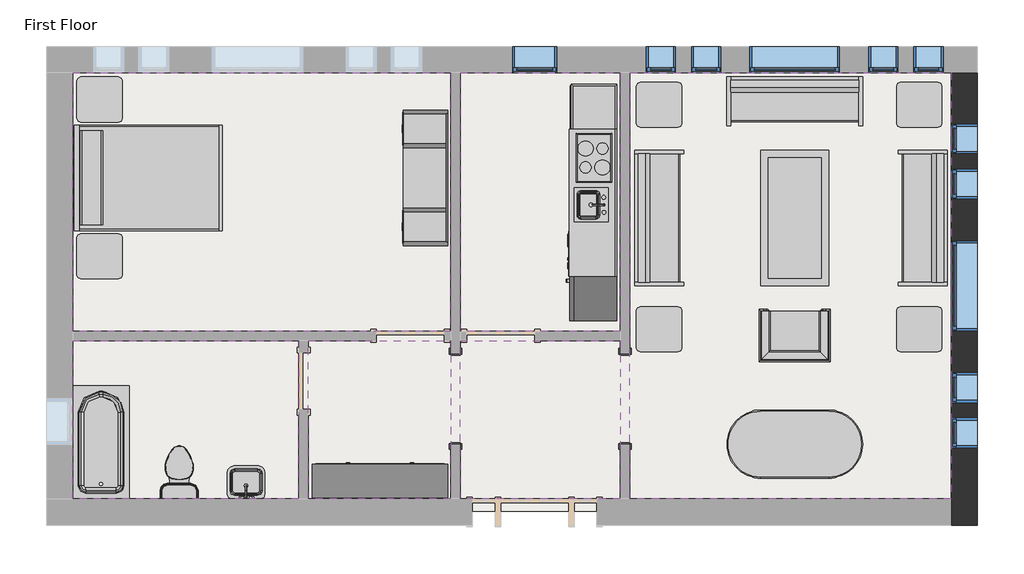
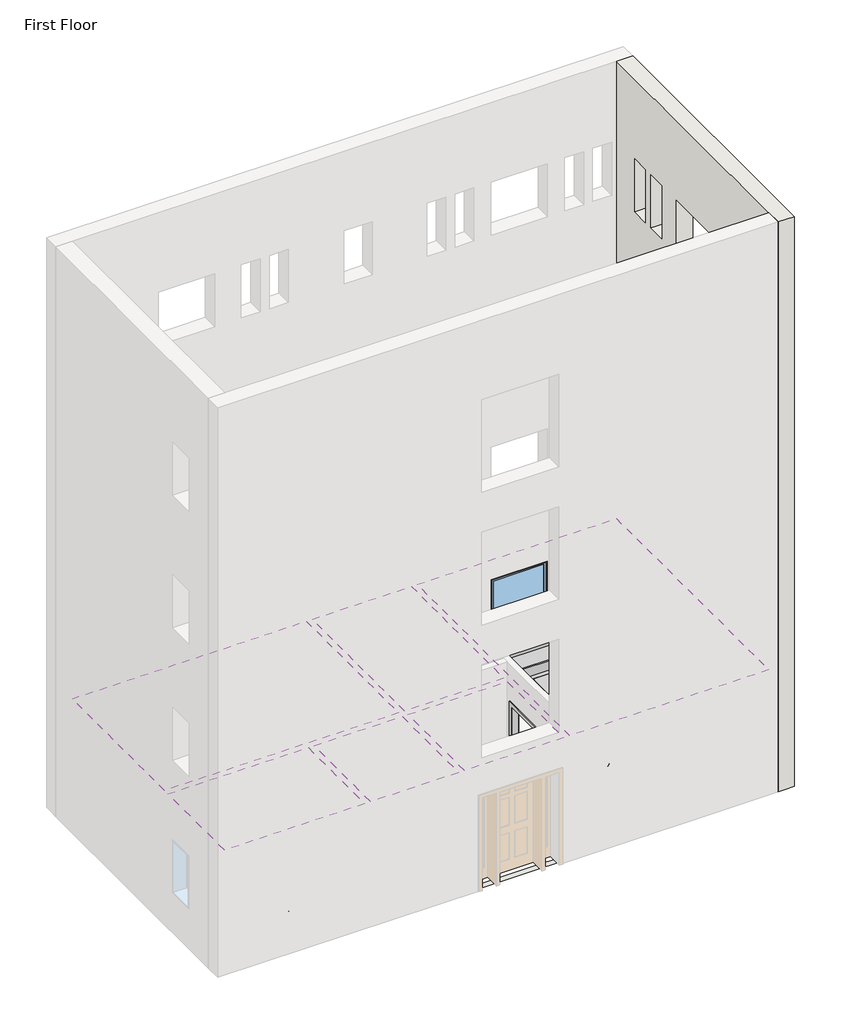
# One storey, part 2 of 2: 15 furniture elements, 11 windows, 6 coverings, 3 flow terminals, 3 proxies, 1 slab, 1 wall.
"""IFC4 building model written with IfcOpenShell, lengths in millimetres."""

from ifc_helpers import new_model, si_unit, frame, origin, place, context, project, spatial, polyline, outline, extrude, faceted_brep, transform, mapped, element, save
from components import proxy_64a468c4, proxy_f44482cc, flow_terminal_0aeb31e3, toilet_domestic_3d_toilet_domestic_3d_f7549cf7, toilet_domestic_3d_toilet_domestic_3d_183bbd19, tub_rectangular_3d_tub_rectangular_3d_5e45a89b, furniture_096e7f55, chair_corbu_chair_corbu_2764bdef, furniture_7c473f12, furniture_ddc78764, furniture_4ef38d96, furniture_cd93a443, furniture_2c34a4f9, furniture_3a588284, furniture_1befe2a2, window_da97879f, window_d61ef850, window_60baf983, window_6eb97611

model = new_model("IFC4")

# Units and contexts
model_context = context("Model", 3, world=origin())
ifc_project = project(units=[si_unit("LENGTHUNIT", "METRE", prefix="MILLI")], contexts=[model_context])

# Site, building, storey
site = spatial("IfcSite", under=ifc_project)
building = spatial("IfcBuilding", under=site)
storey = spatial("IfcBuildingStorey", under=building, Name="First Floor", Elevation=0.0)

# Proxies
placement = place(None, origin())
proxy_shape = proxy_64a468c4(model_context)
element("IfcBuildingElementProxy", 1, Name="Kitchenette - Medium : 8'6\"", ObjectType="Kitchenette - Medium : 8'6\"", at=placement, inside=storey, context=model_context, shape_type="MappedRepresentation", body=[
    mapped(proxy_shape, transform((-3887.7589563, 8837.7956433, 0.0), x_axis=(0.0, -1.0, 0.0), y_axis=(1.0, 0.0, 0.0), z_axis=(0.0, 0.0, 1.0))),
])
proxy_2_shape = proxy_f44482cc(model_context)
element("IfcBuildingElementProxy", 2, Name="Opening-Cased : 48\" x 84\"", ObjectType="Opening-Cased : 48\" x 84\"", at=placement, inside=storey, context=model_context, shape_type="MappedRepresentation", body=[
    mapped(proxy_2_shape, transform((-3773.4589563, 5882.4203434, 0.0), x_axis=(0.0, 1.0, 0.0), y_axis=(-1.0, 0.0, 0.0), z_axis=(0.0, 0.0, 1.0))),
])
element("IfcBuildingElementProxy", 3, Name="Opening-Cased : 48\" x 84\"", ObjectType="Opening-Cased : 48\" x 84\"", at=placement, inside=storey, context=model_context, shape_type="MappedRepresentation", body=[
    mapped(proxy_2_shape, transform((-6059.4589563, 5866.04303, 0.0), x_axis=(0.0, -1.0, 0.0), y_axis=(1.0, 0.0, 0.0), z_axis=(0.0, 0.0, 1.0))),
])

# Coverings
element("IfcCovering", 4, ObjectType="GWB on Mtl. Stud", at=placement, inside=storey, context=model_context, shape_type="SweptSolid", body=[
    extrude(outline(polyline([(-11217.2464563, 10270.0191867), (-6122.9589563, 10270.0191867), (-6122.9589563, 6787.0441867), (-11217.2464563, 6787.0441867), (-11217.2464563, 10270.0191867)])), frame((0.0, 0.0, 2590.8), z_axis=(0.0, 0.0, 1.0), x_axis=(1.0, 0.0, 0.0)), (0.0, 0.0, 1.0), 107.95),
])
element("IfcCovering", 5, ObjectType="GWB on Mtl. Stud", at=placement, inside=storey, context=model_context, shape_type="SweptSolid", body=[
    extrude(outline(polyline([(-5995.9589563, 6787.0441867), (-5995.9589563, 10270.0191867), (-3836.9589563, 10270.0191867), (-3836.9589563, 6787.0441867), (-5995.9589563, 6787.0441867)])), frame((0.0, 0.0, 2590.8), z_axis=(0.0, 0.0, 1.0), x_axis=(1.0, 0.0, 0.0)), (0.0, 0.0, 1.0), 107.95),
])
element("IfcCovering", 6, ObjectType="GWB on Mtl. Stud", at=placement, inside=storey, context=model_context, shape_type="SweptSolid", body=[
    extrude(outline(polyline([(-3709.9589563, 4526.4441867), (-3709.9589563, 10270.0191867), (622.3285437, 10270.0191867), (622.3285437, 4526.4441867), (-3709.9589563, 4526.4441867)])), frame((0.0, 0.0, 2590.8), z_axis=(0.0, 0.0, 1.0), x_axis=(1.0, 0.0, 0.0)), (0.0, 0.0, 1.0), 107.95),
])
element("IfcCovering", 7, ObjectType="GWB on Mtl. Stud", at=placement, inside=storey, context=model_context, shape_type="SweptSolid", body=[
    extrude(outline(polyline([(-3836.9589563, 4526.4441867), (-5995.9589563, 4526.4441867), (-5995.9589563, 6660.0441867), (-3836.9589563, 6660.0441867), (-3836.9589563, 4526.4441867)])), frame((0.0, 0.0, 2590.8), z_axis=(0.0, 0.0, 1.0), x_axis=(1.0, 0.0, 0.0)), (0.0, 0.0, 1.0), 107.95),
])
element("IfcCovering", 8, ObjectType="GWB on Mtl. Stud", at=placement, inside=storey, context=model_context, shape_type="SweptSolid", body=[
    extrude(outline(polyline([(-6122.9589563, 4526.4441867), (-8042.2464563, 4526.4441867), (-8042.2464563, 6660.0441867), (-6122.9589563, 6660.0441867), (-6122.9589563, 4526.4441867)])), frame((0.0, 0.0, 2590.8), z_axis=(0.0, 0.0, 1.0), x_axis=(1.0, 0.0, 0.0)), (0.0, 0.0, 1.0), 107.95),
])
element("IfcCovering", 9, ObjectType="GWB on Mtl. Stud", at=placement, inside=storey, context=model_context, shape_type="SweptSolid", body=[
    extrude(outline(polyline([(-8169.2464563, 6660.0441867), (-8169.2464563, 4526.4441867), (-11217.2464563, 4526.4441867), (-11217.2464563, 6660.0441867), (-8169.2464563, 6660.0441867)])), frame((0.0, 0.0, 2590.8), z_axis=(0.0, 0.0, 1.0), x_axis=(1.0, 0.0, 0.0)), (0.0, 0.0, 1.0), 107.95),
])

# Flow terminals
flow_terminal_shape = flow_terminal_0aeb31e3(model_context)
element("IfcFlowTerminal", 10, ObjectType="Sink Vanity-Square : 24\" x 19\"", at=placement, inside=storey, context=model_context, shape_type="MappedRepresentation", body=[
    mapped(flow_terminal_shape, transform((-8864.7572157, 4706.5895878, 0.0), x_axis=(-1.0, 0.0, 0.0), y_axis=(0.0, -1.0, 0.0), z_axis=(0.0, 0.0, 1.0))),
])
toilet_domestic_3d_toilet_domestic_3d_shape = toilet_domestic_3d_toilet_domestic_3d_f7549cf7(model_context)
toilet_domestic_3d_toilet_domestic_3d_2_shape = toilet_domestic_3d_toilet_domestic_3d_183bbd19(model_context)
element("IfcFlowTerminal", 11, ObjectType="Toilet-Domestic-3D : Toilet-Domestic-3D", at=placement, inside=storey, context=model_context, shape_type="MappedRepresentation", body=[
    mapped(toilet_domestic_3d_toilet_domestic_3d_shape, transform((-9782.1466587, 4940.866411, 0.0), x_axis=(-1.0000000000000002, 0.0, 0.0), y_axis=(0.0, -1.0000000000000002, 0.0), z_axis=(0.0, 0.0, 1.0))),
    mapped(toilet_domestic_3d_toilet_domestic_3d_2_shape, transform((-9782.1466587, 4940.866411, 0.0), x_axis=(-1.0000000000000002, 0.0, 0.0), y_axis=(0.0, -1.0000000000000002, 0.0), z_axis=(0.0, 0.0, 1.0))),
])
tub_rectangular_3d_tub_rectangular_3d_shape = tub_rectangular_3d_tub_rectangular_3d_5e45a89b(model_context)
element("IfcFlowTerminal", 12, ObjectType="Tub-Rectangular-3D : Tub-Rectangular-3D", at=placement, inside=storey, context=model_context, shape_type="MappedRepresentation", body=[
    mapped(tub_rectangular_3d_tub_rectangular_3d_shape, transform((-11393.4589563, 5637.0471554, 0.0), x_axis=(0.0, 1.0, 0.0), y_axis=(-1.0, 0.0, 0.0), z_axis=(0.0, 0.0, 1.0))),
])

# Furniture
furniture_shape = furniture_096e7f55(model_context)
element("IfcFurniture", 13, ObjectType="Bed-Shaker : Double 56\" x 78\"", at=placement, inside=storey, context=model_context, shape_type="MappedRepresentation", body=[
    mapped(furniture_shape, transform((-11183.1982802, 8871.8755561, 0.0), x_axis=(0.0, 1.0, 0.0), y_axis=(-1.0, 0.0, 0.0), z_axis=(0.0, 0.0, 1.0))),
])
chair_corbu_chair_corbu_shape = chair_corbu_chair_corbu_2764bdef(model_context)
element("IfcFurniture", 14, ObjectType="Chair-Corbu : Chair-Corbu", at=placement, inside=storey, context=model_context, shape_type="MappedRepresentation", body=[
    mapped(chair_corbu_chair_corbu_shape, transform((-914.0851858, 7193.4962359, 0.0), x_axis=(-1.0, 0.0, 0.0), y_axis=(0.0, -1.0, 0.0), z_axis=(0.0, 0.0, 1.0))),
])
furniture_2_shape = furniture_7c473f12(model_context)
element("IfcFurniture", 15, ObjectType="Dresser : 72\" x 60\" x 18\"", at=placement, inside=storey, context=model_context, shape_type="MappedRepresentation", body=[
    mapped(furniture_2_shape, transform((-7344.6522161, 4404.5812326, 0.0), x_axis=(-1.0, 0.0, 0.0), y_axis=(0.0, -1.0, 0.0), z_axis=(0.0, 0.0, 1.0))),
])
furniture_3_shape = furniture_ddc78764(model_context)
element("IfcFurniture", 16, ObjectType="Entertainment Center : 72\" x 72\" x 24\"", at=placement, inside=storey, context=model_context, shape_type="MappedRepresentation", body=[
    mapped(furniture_3_shape, transform((-6059.4589563, 8852.8255561, 0.0), x_axis=(0.0, -1.0, 0.0), y_axis=(1.0, 0.0, 0.0), z_axis=(0.0, 0.0, 1.0))),
])
furniture_4_shape = furniture_4ef38d96(model_context)
element("IfcFurniture", 17, ObjectType="Sofa : 72\"", at=placement, inside=storey, context=model_context, shape_type="MappedRepresentation", body=[
    mapped(furniture_4_shape, transform((-1557.8294481, 9741.2775883, 0.0), x_axis=(1.0, 0.0, 0.0), y_axis=(0.0, 1.0, 0.0), z_axis=(0.0, 0.0, 1.0))),
])
element("IfcFurniture", 18, ObjectType="Sofa : 72\"", at=placement, inside=storey, context=model_context, shape_type="MappedRepresentation", body=[
    mapped(furniture_4_shape, transform((93.5869453, 8383.0021785, 0.0), x_axis=(0.0, -1.0, 0.0), y_axis=(1.0, 0.0, 0.0), z_axis=(0.0, 0.0, 1.0))),
])
element("IfcFurniture", 19, ObjectType="Sofa : 72\"", at=placement, inside=storey, context=model_context, shape_type="MappedRepresentation", body=[
    mapped(furniture_4_shape, transform((-3170.104858, 8242.2611949, 0.0), x_axis=(0.0, 1.0, 0.0), y_axis=(-1.0, 0.0, 0.0), z_axis=(0.0, 0.0, 1.0))),
])
furniture_5_shape = furniture_cd93a443(model_context)
element("IfcFurniture", 20, ObjectType="Table-Coffee : 36\" x 72\" x 18\"", at=placement, inside=storey, context=model_context, shape_type="MappedRepresentation", body=[
    mapped(furniture_5_shape, transform((-1582.6700341, 8330.8974534, 0.0), x_axis=(0.0, -1.0, 0.0), y_axis=(1.0, 0.0, 0.0), z_axis=(0.0, 0.0, 1.0))),
])
furniture_6_shape = furniture_2c34a4f9(model_context)
element("IfcFurniture", 21, ObjectType="Table-Dining Oval : 36\" x 72\"", at=placement, inside=storey, context=model_context, shape_type="MappedRepresentation", body=[
    mapped(furniture_6_shape, transform((-1085.6392842, 5622.7300473, 0.0), x_axis=(1.0, 0.0, 0.0), y_axis=(0.0, 1.0, 0.0), z_axis=(0.0, 0.0, 1.0))),
])
furniture_7_shape = furniture_3a588284(model_context)
element("IfcFurniture", 22, ObjectType="Table-End : 24\" x 24\"", at=placement, inside=storey, context=model_context, shape_type="MappedRepresentation", body=[
    mapped(furniture_7_shape, transform((-119.5925866, 9684.2316867, 0.0), x_axis=(1.0, 0.0, 0.0), y_axis=(0.0, 1.0, 0.0), z_axis=(0.0, 0.0, 1.0))),
])
element("IfcFurniture", 23, ObjectType="Table-End : 24\" x 24\"", at=placement, inside=storey, context=model_context, shape_type="MappedRepresentation", body=[
    mapped(furniture_7_shape, transform((-3624.7925866, 9684.2316867, 0.0), x_axis=(1.0, 0.0, 0.0), y_axis=(0.0, 1.0, 0.0), z_axis=(0.0, 0.0, 1.0))),
])
element("IfcFurniture", 24, ObjectType="Table-End : 24\" x 24\"", at=placement, inside=storey, context=model_context, shape_type="MappedRepresentation", body=[
    mapped(furniture_7_shape, transform((-3624.7925866, 6660.0441867, 0.0), x_axis=(1.0, 0.0, 0.0), y_axis=(0.0, 1.0, 0.0), z_axis=(0.0, 0.0, 1.0))),
])
element("IfcFurniture", 25, ObjectType="Table-End : 24\" x 24\"", at=placement, inside=storey, context=model_context, shape_type="MappedRepresentation", body=[
    mapped(furniture_7_shape, transform((-119.5925866, 6660.0441867, 0.0), x_axis=(1.0, 0.0, 0.0), y_axis=(0.0, 1.0, 0.0), z_axis=(0.0, 0.0, 1.0))),
])
element("IfcFurniture", 26, ObjectType="Table-End : 24\" x 24\"", at=placement, inside=storey, context=model_context, shape_type="MappedRepresentation", body=[
    mapped(furniture_7_shape, transform((-11164.2346356, 9756.0737357, 0.0), x_axis=(1.0, 0.0, 0.0), y_axis=(0.0, 1.0, 0.0), z_axis=(0.0, 0.0, 1.0))),
])
furniture_8_shape = furniture_1befe2a2(model_context)
element("IfcFurniture", 27, ObjectType="Table-End : 24\" x 24\"", at=placement, inside=storey, context=model_context, shape_type="MappedRepresentation", body=[
    mapped(furniture_8_shape, transform((-11164.2346356, 7949.5773764, 0.0), x_axis=(1.0, 0.0, 0.0), y_axis=(0.0, 1.0, 0.0), z_axis=(0.0, 0.0, 1.0))),
])

# Slab
element("IfcSlab", 28, ObjectType="LW Concrete on Metal Deck", at=placement, inside=storey, context=model_context, shape_type="SweptSolid", body=[
    extrude(outline(polyline([(787.4285437, 10435.1191867), (787.4285437, 4361.3441867), (-11382.3464563, 4361.3441867), (-11382.3464563, 10435.1191867), (787.4285437, 10435.1191867)])), frame((0.0, 0.0, -104.775), z_axis=(0.0, 0.0, 1.0), x_axis=(1.0, 0.0, 0.0)), (0.0, 0.0, 1.0), 104.775),
])

# Wall
element("IfcWall", 29, ObjectType="Exterior - Brick on Mtl. Stud", at=placement, inside=storey, context=model_context, shape_type="Brep", body=[
    faceted_brep([(622.3285437, 10270.0191867, 13106.4), (622.3285437, 4526.4441867, 13106.4), (622.3285437, 4174.0191867, 13106.4), (974.7535437, 4174.0191867, 13106.4), (974.7535437, 10270.0191867, 13106.4), (622.3285437, 10270.0191867, 0.0), (622.3285437, 4526.4441867, 0.0), (622.3285437, 4361.3441867, 0.0), (622.3285437, 4174.0191867, 0.0), (622.3285437, 5823.4316867, 8229.6), (622.3285437, 5823.4316867, 7010.4), (622.3285437, 6229.8316867, 7010.4), (622.3285437, 6229.8316867, 8229.6), (622.3285437, 5213.8316867, 8229.6), (622.3285437, 5213.8316867, 7010.4), (622.3285437, 5620.2316867, 7010.4), (622.3285437, 5620.2316867, 8229.6), (622.3285437, 8973.0316867, 8229.6), (622.3285437, 8566.6316867, 8229.6), (622.3285437, 8566.6316867, 7010.4), (622.3285437, 8973.0316867, 7010.4), (622.3285437, 9582.6316867, 8229.6), (622.3285437, 9176.2316867, 8229.6), (622.3285437, 9176.2316867, 7010.4), (622.3285437, 9582.6316867, 7010.4), (622.3285437, 8007.8316867, 8229.6), (622.3285437, 6788.6316867, 8229.6), (622.3285437, 6788.6316867, 7010.4), (622.3285437, 8007.8316867, 7010.4), (622.3285437, 5823.4316867, 5181.6), (622.3285437, 5823.4316867, 3962.4), (622.3285437, 6229.8316867, 3962.4), (622.3285437, 6229.8316867, 5181.6), (622.3285437, 5213.8316867, 5181.6), (622.3285437, 5213.8316867, 3962.4), (622.3285437, 5620.2316867, 3962.4), (622.3285437, 5620.2316867, 5181.6), (622.3285437, 8973.0316867, 5181.6), (622.3285437, 8566.6316867, 5181.6), (622.3285437, 8566.6316867, 3962.4), (622.3285437, 8973.0316867, 3962.4), (622.3285437, 9582.6316867, 5181.6), (622.3285437, 9176.2316867, 5181.6), (622.3285437, 9176.2316867, 3962.4), (622.3285437, 9582.6316867, 3962.4), (622.3285437, 8007.8316867, 5181.6), (622.3285437, 6788.6316867, 5181.6), (622.3285437, 6788.6316867, 3962.4), (622.3285437, 8007.8316867, 3962.4), (622.3285437, 5823.4316867, 11277.6), (622.3285437, 5823.4316867, 10058.4), (622.3285437, 6229.8316867, 10058.4), (622.3285437, 6229.8316867, 11277.6), (622.3285437, 5213.8316867, 11277.6), (622.3285437, 5213.8316867, 10058.4), (622.3285437, 5620.2316867, 10058.4), (622.3285437, 5620.2316867, 11277.6), (622.3285437, 8973.0316867, 11277.6), (622.3285437, 8566.6316867, 11277.6), (622.3285437, 8566.6316867, 10058.4), (622.3285437, 8973.0316867, 10058.4), (622.3285437, 9582.6316867, 11277.6), (622.3285437, 9176.2316867, 11277.6), (622.3285437, 9176.2316867, 10058.4), (622.3285437, 9582.6316867, 10058.4), (622.3285437, 8007.8316867, 11277.6), (622.3285437, 6788.6316867, 11277.6), (622.3285437, 6788.6316867, 10058.4), (622.3285437, 8007.8316867, 10058.4), (622.3285437, 5823.4316867, 2133.6), (622.3285437, 5823.4316867, 914.4), (622.3285437, 6229.8316867, 914.4), (622.3285437, 6229.8316867, 2133.6), (622.3285437, 5213.8316867, 2133.6), (622.3285437, 5213.8316867, 914.4), (622.3285437, 5620.2316867, 914.4), (622.3285437, 5620.2316867, 2133.6), (622.3285437, 8973.0316867, 2133.6), (622.3285437, 8566.6316867, 2133.6), (622.3285437, 8566.6316867, 914.4), (622.3285437, 8973.0316867, 914.4), (622.3285437, 9582.6316867, 2133.6), (622.3285437, 9176.2316867, 2133.6), (622.3285437, 9176.2316867, 914.4), (622.3285437, 9582.6316867, 914.4), (622.3285437, 8007.8316867, 2133.6), (622.3285437, 6788.6316867, 2133.6), (622.3285437, 6788.6316867, 914.4), (622.3285437, 8007.8316867, 914.4), (974.7535437, 10270.0191867, 0.0), (974.7535437, 4174.0191867, 0.0), (974.7535437, 4361.3441867, 0.0), (974.7535437, 5823.4316867, 8229.6), (974.7535437, 6229.8316867, 8229.6), (974.7535437, 6229.8316867, 7010.4), (974.7535437, 5823.4316867, 7010.4), (974.7535437, 5213.8316867, 8229.6), (974.7535437, 5620.2316867, 8229.6), (974.7535437, 5620.2316867, 7010.4), (974.7535437, 5213.8316867, 7010.4), (974.7535437, 8973.0316867, 8229.6), (974.7535437, 8973.0316867, 7010.4), (974.7535437, 8566.6316867, 7010.4), (974.7535437, 8566.6316867, 8229.6), (974.7535437, 9582.6316867, 8229.6), (974.7535437, 9582.6316867, 7010.4), (974.7535437, 9176.2316867, 7010.4), (974.7535437, 9176.2316867, 8229.6), (974.7535437, 8007.8316867, 8229.6), (974.7535437, 8007.8316867, 7010.4), (974.7535437, 6788.6316867, 7010.4), (974.7535437, 6788.6316867, 8229.6), (974.7535437, 5823.4316867, 5181.6), (974.7535437, 6229.8316867, 5181.6), (974.7535437, 6229.8316867, 3962.4), (974.7535437, 5823.4316867, 3962.4), (974.7535437, 5213.8316867, 5181.6), (974.7535437, 5620.2316867, 5181.6), (974.7535437, 5620.2316867, 3962.4), (974.7535437, 5213.8316867, 3962.4), (974.7535437, 8973.0316867, 5181.6), (974.7535437, 8973.0316867, 3962.4), (974.7535437, 8566.6316867, 3962.4), (974.7535437, 8566.6316867, 5181.6), (974.7535437, 9582.6316867, 5181.6), (974.7535437, 9582.6316867, 3962.4), (974.7535437, 9176.2316867, 3962.4), (974.7535437, 9176.2316867, 5181.6), (974.7535437, 8007.8316867, 5181.6), (974.7535437, 8007.8316867, 3962.4), (974.7535437, 6788.6316867, 3962.4), (974.7535437, 6788.6316867, 5181.6), (974.7535437, 5823.4316867, 11277.6), (974.7535437, 6229.8316867, 11277.6), (974.7535437, 6229.8316867, 10058.4), (974.7535437, 5823.4316867, 10058.4), (974.7535437, 5213.8316867, 11277.6), (974.7535437, 5620.2316867, 11277.6), (974.7535437, 5620.2316867, 10058.4), (974.7535437, 5213.8316867, 10058.4), (974.7535437, 8973.0316867, 11277.6), (974.7535437, 8973.0316867, 10058.4), (974.7535437, 8566.6316867, 10058.4), (974.7535437, 8566.6316867, 11277.6), (974.7535437, 9582.6316867, 11277.6), (974.7535437, 9582.6316867, 10058.4), (974.7535437, 9176.2316867, 10058.4), (974.7535437, 9176.2316867, 11277.6), (974.7535437, 8007.8316867, 11277.6), (974.7535437, 8007.8316867, 10058.4), (974.7535437, 6788.6316867, 10058.4), (974.7535437, 6788.6316867, 11277.6), (974.7535437, 5823.4316867, 2133.6), (974.7535437, 6229.8316867, 2133.6), (974.7535437, 6229.8316867, 914.4), (974.7535437, 5823.4316867, 914.4), (974.7535437, 5213.8316867, 2133.6), (974.7535437, 5620.2316867, 2133.6), (974.7535437, 5620.2316867, 914.4), (974.7535437, 5213.8316867, 914.4), (974.7535437, 8973.0316867, 2133.6), (974.7535437, 8973.0316867, 914.4), (974.7535437, 8566.6316867, 914.4), (974.7535437, 8566.6316867, 2133.6), (974.7535437, 9582.6316867, 2133.6), (974.7535437, 9582.6316867, 914.4), (974.7535437, 9176.2316867, 914.4), (974.7535437, 9176.2316867, 2133.6), (974.7535437, 8007.8316867, 2133.6), (974.7535437, 8007.8316867, 914.4), (974.7535437, 6788.6316867, 914.4), (974.7535437, 6788.6316867, 2133.6), (787.4285437, 10270.0191867, 0.0), (787.4285437, 4174.0191867, 0.0), (787.4285437, 4361.3441867, 0.0)], [[[0, 1, 2, 3, 4]], [[5, 6, 7, 8, 2, 1, 0], [9, 10, 11, 12], [13, 14, 15, 16], [17, 18, 19, 20], [21, 22, 23, 24], [25, 26, 27, 28], [29, 30, 31, 32], [33, 34, 35, 36], [37, 38, 39, 40], [41, 42, 43, 44], [45, 46, 47, 48], [49, 50, 51, 52], [53, 54, 55, 56], [57, 58, 59, 60], [61, 62, 63, 64], [65, 66, 67, 68], [69, 70, 71, 72], [73, 74, 75, 76], [77, 78, 79, 80], [81, 82, 83, 84], [85, 86, 87, 88]], [[89, 4, 3, 90, 91], [92, 93, 94, 95], [96, 97, 98, 99], [100, 101, 102, 103], [104, 105, 106, 107], [108, 109, 110, 111], [112, 113, 114, 115], [116, 117, 118, 119], [120, 121, 122, 123], [124, 125, 126, 127], [128, 129, 130, 131], [132, 133, 134, 135], [136, 137, 138, 139], [140, 141, 142, 143], [144, 145, 146, 147], [148, 149, 150, 151], [152, 153, 154, 155], [156, 157, 158, 159], [160, 161, 162, 163], [164, 165, 166, 167], [168, 169, 170, 171]], [[5, 0, 4, 89, 172]], [[2, 8, 173, 90, 3]], [[172, 89, 91, 174]], [[8, 7, 174, 173]], [[174, 91, 90, 173]], [[7, 6, 5, 172, 174]], [[10, 9, 92, 95]], [[11, 10, 95, 94]], [[12, 11, 94, 93]], [[9, 12, 93, 92]], [[14, 13, 96, 99]], [[15, 14, 99, 98]], [[16, 15, 98, 97]], [[13, 16, 97, 96]], [[101, 100, 17, 20]], [[102, 101, 20, 19]], [[103, 102, 19, 18]], [[100, 103, 18, 17]], [[105, 104, 21, 24]], [[106, 105, 24, 23]], [[107, 106, 23, 22]], [[104, 107, 22, 21]], [[109, 108, 25, 28]], [[110, 109, 28, 27]], [[111, 110, 27, 26]], [[108, 111, 26, 25]], [[30, 29, 112, 115]], [[31, 30, 115, 114]], [[32, 31, 114, 113]], [[29, 32, 113, 112]], [[34, 33, 116, 119]], [[35, 34, 119, 118]], [[36, 35, 118, 117]], [[33, 36, 117, 116]], [[121, 120, 37, 40]], [[122, 121, 40, 39]], [[123, 122, 39, 38]], [[120, 123, 38, 37]], [[125, 124, 41, 44]], [[126, 125, 44, 43]], [[127, 126, 43, 42]], [[124, 127, 42, 41]], [[129, 128, 45, 48]], [[130, 129, 48, 47]], [[131, 130, 47, 46]], [[128, 131, 46, 45]], [[50, 49, 132, 135]], [[51, 50, 135, 134]], [[52, 51, 134, 133]], [[49, 52, 133, 132]], [[54, 53, 136, 139]], [[55, 54, 139, 138]], [[56, 55, 138, 137]], [[53, 56, 137, 136]], [[141, 140, 57, 60]], [[142, 141, 60, 59]], [[143, 142, 59, 58]], [[140, 143, 58, 57]], [[145, 144, 61, 64]], [[146, 145, 64, 63]], [[147, 146, 63, 62]], [[144, 147, 62, 61]], [[149, 148, 65, 68]], [[150, 149, 68, 67]], [[151, 150, 67, 66]], [[148, 151, 66, 65]], [[70, 69, 152, 155]], [[71, 70, 155, 154]], [[72, 71, 154, 153]], [[69, 72, 153, 152]], [[74, 73, 156, 159]], [[75, 74, 159, 158]], [[76, 75, 158, 157]], [[73, 76, 157, 156]], [[161, 160, 77, 80]], [[162, 161, 80, 79]], [[163, 162, 79, 78]], [[160, 163, 78, 77]], [[165, 164, 81, 84]], [[166, 165, 84, 83]], [[167, 166, 83, 82]], [[164, 167, 82, 81]], [[169, 168, 85, 88]], [[170, 169, 88, 87]], [[171, 170, 87, 86]], [[168, 171, 86, 85]]]),
])

# Windows
window_shape = window_da97879f(model_context)
element("IfcWindow", 30, ObjectType="Fixed : 16\" x 48\"", at=placement, inside=storey, context=model_context, shape_type="MappedRepresentation", body=[
    mapped(window_shape, transform((-3328.9589563, 10446.2316867, 0.0), x_axis=(-1.0, 0.0, 0.0), y_axis=(0.0, -1.0, 0.0), z_axis=(0.0, 0.0, 1.0))),
])
element("IfcWindow", 31, ObjectType="Fixed : 16\" x 48\"", at=placement, inside=storey, context=model_context, shape_type="MappedRepresentation", body=[
    mapped(window_shape, transform((-2719.3589563, 10446.2316867, 0.0), x_axis=(-1.0, 0.0, 0.0), y_axis=(0.0, -1.0, 0.0), z_axis=(0.0, 0.0, 1.0))),
])
element("IfcWindow", 32, ObjectType="Fixed : 16\" x 48\"", at=placement, inside=storey, context=model_context, shape_type="MappedRepresentation", body=[
    mapped(window_shape, transform((798.5410437, 9417.5316867, 0.0), x_axis=(0.0, 1.0, 0.0), y_axis=(-1.0, 0.0, 0.0), z_axis=(0.0, 0.0, 1.0))),
])
element("IfcWindow", 33, ObjectType="Fixed : 16\" x 48\"", at=placement, inside=storey, context=model_context, shape_type="MappedRepresentation", body=[
    mapped(window_shape, transform((798.5410437, 8807.9316867, 0.0), x_axis=(0.0, 1.0, 0.0), y_axis=(-1.0, 0.0, 0.0), z_axis=(0.0, 0.0, 1.0))),
])
window_2_shape = window_d61ef850(model_context)
element("IfcWindow", 34, ObjectType="Fixed : 16\" x 48\"", at=placement, inside=storey, context=model_context, shape_type="MappedRepresentation", body=[
    mapped(window_2_shape, transform((354.0410437, 10446.2316867, 0.0), x_axis=(1.0, 0.0, 0.0), y_axis=(0.0, 1.0, 0.0), z_axis=(0.0, 0.0, 1.0))),
])
element("IfcWindow", 35, ObjectType="Fixed : 16\" x 48\"", at=placement, inside=storey, context=model_context, shape_type="MappedRepresentation", body=[
    mapped(window_2_shape, transform((-255.5589563, 10446.2316867, 0.0), x_axis=(1.0, 0.0, 0.0), y_axis=(0.0, 1.0, 0.0), z_axis=(0.0, 0.0, 1.0))),
])
element("IfcWindow", 36, ObjectType="Fixed : 16\" x 48\"", at=placement, inside=storey, context=model_context, shape_type="MappedRepresentation", body=[
    mapped(window_2_shape, transform((798.5410437, 5378.9316867, 0.0), x_axis=(0.0, -1.0, 0.0), y_axis=(1.0, 0.0, 0.0), z_axis=(0.0, 0.0, 1.0))),
])
element("IfcWindow", 37, ObjectType="Fixed : 16\" x 48\"", at=placement, inside=storey, context=model_context, shape_type="MappedRepresentation", body=[
    mapped(window_2_shape, transform((798.5410437, 5988.5316867, 0.0), x_axis=(0.0, -1.0, 0.0), y_axis=(1.0, 0.0, 0.0), z_axis=(0.0, 0.0, 1.0))),
])
window_3_shape = window_60baf983(model_context)
element("IfcWindow", 38, ObjectType="Fixed : 24\" x 48\"", at=placement, inside=storey, context=model_context, shape_type="MappedRepresentation", body=[
    mapped(window_3_shape, transform((-5030.7589563, 10446.2316867, 0.0), x_axis=(-1.0, 0.0, 0.0), y_axis=(0.0, -1.0, 0.0), z_axis=(0.0, 0.0, 1.0))),
])
window_4_shape = window_6eb97611(model_context)
element("IfcWindow", 39, ObjectType="Fixed : 48\" x 48\"", at=placement, inside=storey, context=model_context, shape_type="MappedRepresentation", body=[
    mapped(window_4_shape, transform((-1525.5589563, 10446.2316867, 0.0), x_axis=(-1.0, 0.0, 0.0), y_axis=(0.0, -1.0, 0.0), z_axis=(0.0, 0.0, 1.0))),
])
element("IfcWindow", 40, ObjectType="Fixed : 48\" x 48\"", at=placement, inside=storey, context=model_context, shape_type="MappedRepresentation", body=[
    mapped(window_4_shape, transform((798.5410437, 7436.3316867, 0.0), x_axis=(0.0, 1.0, 0.0), y_axis=(-1.0, 0.0, 0.0), z_axis=(0.0, 0.0, 1.0))),
])

save(model, "model.ifc")
